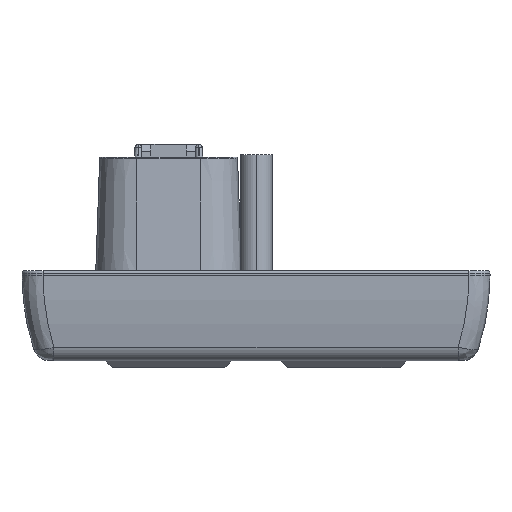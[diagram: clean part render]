
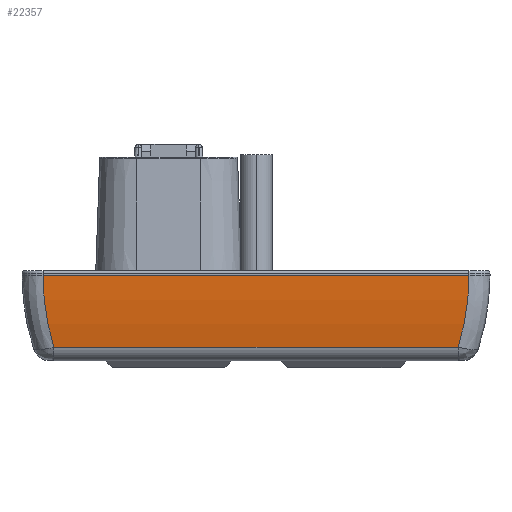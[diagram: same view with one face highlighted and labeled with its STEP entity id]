
A CAD part, left-side view. The second image highlights one B-rep face of the part: STEP entity #22357.
In plain terms, the highlighted cylindrical face has radius 59.055 mm (diameter 118.11 mm), a partial arc.
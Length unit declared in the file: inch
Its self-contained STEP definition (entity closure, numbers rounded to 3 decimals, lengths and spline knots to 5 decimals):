
#1922 = LINE ( 'NONE', #44880, #20729 ) ;
#2851 = CARTESIAN_POINT ( 'NONE',  ( 2.31167, -1.33048, 0.25121 ) ) ;
#2864 = EDGE_LOOP ( 'NONE', ( #19779, #4482, #33175, #26347 ) ) ;
#3763 = CARTESIAN_POINT ( 'NONE',  ( 2.29225, -1.29794, 0.3904 ) ) ;
#4482 = ORIENTED_EDGE ( 'NONE', *, *, #29630, .T. ) ;
#4682 = CARTESIAN_POINT ( 'NONE',  ( 2.325, 1.1825, 0.07249 ) ) ;
#5250 = AXIS2_PLACEMENT_3D ( 'NONE', #46451, #42673, #17868 ) ;
#11778 = CARTESIAN_POINT ( 'NONE',  ( 2.30754, 1.15362, 0.28654 ) ) ;
#11849 = DIRECTION ( 'NONE',  ( 0., 1., 0. ) ) ;
#13882 = CYLINDRICAL_SURFACE ( 'NONE', #5250, 2.325 ) ;
#14165 = CARTESIAN_POINT ( 'NONE',  ( 2.325, -1.3525, 0. ) ) ;
#15322 = CARTESIAN_POINT ( 'NONE',  ( 2.29784, 1.13736, 0.3561 ) ) ;
#15548 = CARTESIAN_POINT ( 'NONE',  ( 2.31167, 1.16048, 0.2512 ) ) ;
#16570 = VERTEX_POINT ( 'NONE', #18883 ) ;
#17526 = VERTEX_POINT ( 'NONE', #45451 ) ;
#17659 = B_SPLINE_CURVE_WITH_KNOTS ( 'NONE', 3,
 ( #36116, #3763, #20807, #29049, #2851, #21274, #28143, #14165 ),
 .UNSPECIFIED., .F., .F.,
 ( 4, 2, 2, 4 ),
 ( 0.00223, 0.00498, 0.00772, 0.01321 ),
 .UNSPECIFIED. ) ;
#17868 = DIRECTION ( 'NONE',  ( 0., 0., -1. ) ) ;
#18392 = CARTESIAN_POINT ( 'NONE',  ( 2.29225, 1.12794, 0.3904 ) ) ;
#18883 = CARTESIAN_POINT ( 'NONE',  ( 2.28597, 1.11725, 0.42425 ) ) ;
#19779 = ORIENTED_EDGE ( 'NONE', *, *, #41948, .T. ) ;
#20198 = B_SPLINE_CURVE_WITH_KNOTS ( 'NONE', 3,
 ( #36092, #4682, #22188, #15548, #11778, #15322, #18392, #43867 ),
 .UNSPECIFIED., .F., .F.,
 ( 4, 2, 2, 4 ),
 ( 0., 0.0055, 0.00825, 0.011 ),
 .UNSPECIFIED. ) ;
#20719 = LINE ( 'NONE', #28043, #26815 ) ;
#20729 = VECTOR ( 'NONE', #11849, 39.37008 ) ;
#20807 = CARTESIAN_POINT ( 'NONE',  ( 2.29784, -1.30736, 0.3561 ) ) ;
#21274 = CARTESIAN_POINT ( 'NONE',  ( 2.32162, -1.34697, 0.14435 ) ) ;
#22188 = CARTESIAN_POINT ( 'NONE',  ( 2.32162, 1.17697, 0.14435 ) ) ;
#22357 = ADVANCED_FACE ( 'NONE', ( #35821 ), #13882, .T. ) ;
#25181 = VERTEX_POINT ( 'NONE', #46324 ) ;
#26347 = ORIENTED_EDGE ( 'NONE', *, *, #44535, .T. ) ;
#26815 = VECTOR ( 'NONE', #27586, 39.37008 ) ;
#27072 = VERTEX_POINT ( 'NONE', #44601 ) ;
#27586 = DIRECTION ( 'NONE',  ( 0., -1., 0. ) ) ;
#28043 = CARTESIAN_POINT ( 'NONE',  ( 2.28597, 2.5, 0.42425 ) ) ;
#28143 = CARTESIAN_POINT ( 'NONE',  ( 2.325, -1.3525, 0.07249 ) ) ;
#29049 = CARTESIAN_POINT ( 'NONE',  ( 2.30754, -1.32362, 0.28655 ) ) ;
#29630 = EDGE_CURVE ( 'NONE', #16570, #25181, #20719, .T. ) ;
#33175 = ORIENTED_EDGE ( 'NONE', *, *, #45497, .T. ) ;
#35821 = FACE_OUTER_BOUND ( 'NONE', #2864, .T. ) ;
#36092 = CARTESIAN_POINT ( 'NONE',  ( 2.325, 1.1825, 0. ) ) ;
#36116 = CARTESIAN_POINT ( 'NONE',  ( 2.28597, -1.28725, 0.42425 ) ) ;
#41948 = EDGE_CURVE ( 'NONE', #17526, #16570, #20198, .T. ) ;
#42673 = DIRECTION ( 'NONE',  ( 0., -1., 0. ) ) ;
#43867 = CARTESIAN_POINT ( 'NONE',  ( 2.28597, 1.11725, 0.42425 ) ) ;
#44535 = EDGE_CURVE ( 'NONE', #27072, #17526, #1922, .T. ) ;
#44601 = CARTESIAN_POINT ( 'NONE',  ( 2.325, -1.3525, 0. ) ) ;
#44880 = CARTESIAN_POINT ( 'NONE',  ( 2.325, 1.3075, 0. ) ) ;
#45451 = CARTESIAN_POINT ( 'NONE',  ( 2.325, 1.1825, 0. ) ) ;
#45497 = EDGE_CURVE ( 'NONE', #25181, #27072, #17659, .T. ) ;
#46324 = CARTESIAN_POINT ( 'NONE',  ( 2.28597, -1.28725, 0.42425 ) ) ;
#46451 = CARTESIAN_POINT ( 'NONE',  ( 0., 2.5, 0. ) ) ;
